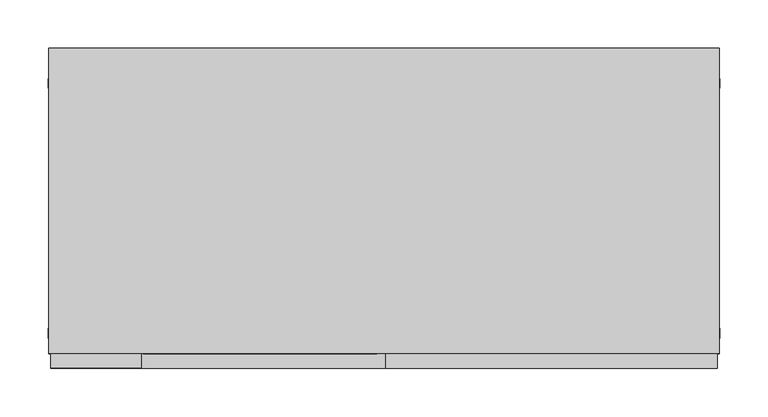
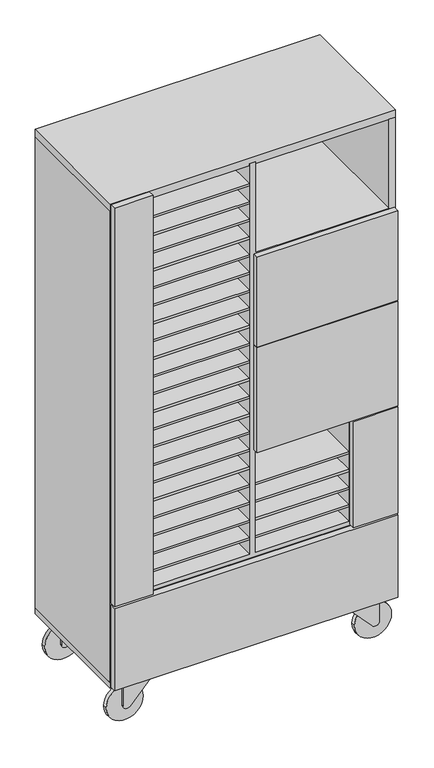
"""IFC4 building model written with IfcOpenShell, lengths in millimetres: furniture geometry, C03 Gabinete informatica : C03 Gabinete informatica."""

from ifc_helpers import new_model, si_unit, point, frame, frame_2d, origin, place, context, project, spatial, polyline, circle_curve, trimmed, segment, composite_curve, outline, extrude, source, transform, mapped, element, save


def furniture_ad757547(model_context):
    return source(origin(), model_context, "Body", "SweptSolid", [
        extrude(outline(polyline([(285.7003264, -48.0), (285.7003264, -24.0), (355.7003264, -24.0), (355.7003264, -48.0), (285.7003264, -48.0)])), frame((0.0, 0.0, 102.0), z_axis=(0.0, 0.0, 1.0), x_axis=(1.0, 0.0, 0.0)), (0.0, 0.0, 1.0), 3.0),
        extrude(outline(composite_curve([segment(polyline([(105.0, 355.7003264), (105.0, 285.7003264), (95.0, 285.7003264), (38.2006885, 338.3675668)]), True, "CONTINUOUS"), segment(trimmed(circle_curve(frame_2d((45.0, 345.7003264)), 10.0), [point((38.2006885, 338.3675668))], [point((45.0, 355.7003264))], False, "CARTESIAN"), True, "CONTINUOUS"), segment(polyline([(45.0, 355.7003264), (105.0, 355.7003264)]), True, "CONTINUOUS")], self_intersect=False)), frame((0.0, -51.0, 0.0), z_axis=(0.0, 1.0, 0.0), x_axis=(0.0, 0.0, 1.0)), (0.0, 0.0, 1.0), 3.0),
        extrude(outline(composite_curve([segment(polyline([(105.0, 355.7003264), (105.0, 285.7003264), (95.0, 285.7003264), (38.2006885, 338.3675668)]), True, "CONTINUOUS"), segment(trimmed(circle_curve(frame_2d((45.0, 345.7003264)), 10.0), [point((38.2006885, 338.3675668))], [point((45.0, 355.7003264))], False, "CARTESIAN"), True, "CONTINUOUS"), segment(polyline([(45.0, 355.7003264), (105.0, 355.7003264)]), True, "CONTINUOUS")], self_intersect=False)), frame((0.0, -24.0, 0.0), z_axis=(0.0, 1.0, 0.0), x_axis=(0.0, 0.0, 1.0)), (0.0, 0.0, 1.0), 3.0),
        extrude(outline(composite_curve([segment(trimmed(circle_curve(frame_2d((45.0, 345.7003264)), 45.0), [point((45.0, 390.7003264))], [point((45.0, 300.7003264))], False, "CARTESIAN"), True, "CONTINUOUS"), segment(trimmed(circle_curve(frame_2d((45.0, 345.7003264)), 45.0), [point((45.0, 300.7003264))], [point((45.0, 390.7003264))], False, "CARTESIAN"), True, "CONTINUOUS")], self_intersect=False)), frame((0.0, -41.0, 0.0), z_axis=(0.0, 1.0, 0.0), x_axis=(0.0, 0.0, 1.0)), (0.0, 0.0, 1.0), 10.0),
        extrude(outline(polyline([(-196.2996736, -48.0), (-266.2996736, -48.0), (-266.2996736, -24.0), (-196.2996736, -24.0), (-196.2996736, -48.0)])), frame((0.0, 0.0, 102.0), z_axis=(0.0, 0.0, 1.0), x_axis=(1.0, 0.0, 0.0)), (0.0, 0.0, 1.0), 3.0),
        extrude(outline(composite_curve([segment(polyline([(105.0, -266.2996736), (45.0, -266.2996736)]), True, "CONTINUOUS"), segment(trimmed(circle_curve(frame_2d((45.0, -256.2996736)), 10.0), [point((45.0, -266.2996736))], [point((38.2006885, -248.966914))], False, "CARTESIAN"), True, "CONTINUOUS"), segment(polyline([(38.2006885, -248.966914), (95.0, -196.2996736), (105.0, -196.2996736), (105.0, -266.2996736)]), True, "CONTINUOUS")], self_intersect=False)), frame((0.0, -51.0, 0.0), z_axis=(0.0, 1.0, 0.0), x_axis=(0.0, 0.0, 1.0)), (0.0, 0.0, 1.0), 3.0),
        extrude(outline(composite_curve([segment(polyline([(105.0, -266.2996736), (45.0, -266.2996736)]), True, "CONTINUOUS"), segment(trimmed(circle_curve(frame_2d((45.0, -256.2996736)), 10.0), [point((45.0, -266.2996736))], [point((38.2006885, -248.966914))], False, "CARTESIAN"), True, "CONTINUOUS"), segment(polyline([(38.2006885, -248.966914), (95.0, -196.2996736), (105.0, -196.2996736), (105.0, -266.2996736)]), True, "CONTINUOUS")], self_intersect=False)), frame((0.0, -24.0, 0.0), z_axis=(0.0, 1.0, 0.0), x_axis=(0.0, 0.0, 1.0)), (0.0, 0.0, 1.0), 3.0),
        extrude(outline(composite_curve([segment(trimmed(circle_curve(frame_2d((45.0, -256.2996736)), 45.0), [point((45.0, -301.2996736))], [point((45.0, -211.2996736))], False, "CARTESIAN"), True, "CONTINUOUS"), segment(trimmed(circle_curve(frame_2d((45.0, -256.2996736)), 45.0), [point((45.0, -211.2996736))], [point((45.0, -301.2996736))], False, "CARTESIAN"), True, "CONTINUOUS")], self_intersect=False)), frame((0.0, -41.0, 0.0), z_axis=(0.0, 1.0, 0.0), x_axis=(0.0, 0.0, 1.0)), (0.0, 0.0, 1.0), 10.0),
        extrude(outline(polyline([(285.7003264, -282.0), (355.7003264, -282.0), (355.7003264, -306.0), (285.7003264, -306.0), (285.7003264, -282.0)])), frame((0.0, 0.0, 102.0), z_axis=(0.0, 0.0, 1.0), x_axis=(1.0, 0.0, 0.0)), (0.0, 0.0, 1.0), 3.0),
        extrude(outline(composite_curve([segment(polyline([(105.0, 355.7003264), (105.0, 285.7003264), (95.0, 285.7003264), (38.2006885, 338.3675668)]), True, "CONTINUOUS"), segment(trimmed(circle_curve(frame_2d((45.0, 345.7003264)), 10.0), [point((38.2006885, 338.3675668))], [point((45.0, 355.7003264))], False, "CARTESIAN"), True, "CONTINUOUS"), segment(polyline([(45.0, 355.7003264), (105.0, 355.7003264)]), True, "CONTINUOUS")], self_intersect=False)), frame((0.0, -282.0, 0.0), z_axis=(0.0, 1.0, 0.0), x_axis=(0.0, 0.0, 1.0)), (0.0, 0.0, 1.0), 3.0),
        extrude(outline(composite_curve([segment(polyline([(105.0, 355.7003264), (105.0, 285.7003264), (95.0, 285.7003264), (38.2006885, 338.3675668)]), True, "CONTINUOUS"), segment(trimmed(circle_curve(frame_2d((45.0, 345.7003264)), 10.0), [point((38.2006885, 338.3675668))], [point((45.0, 355.7003264))], False, "CARTESIAN"), True, "CONTINUOUS"), segment(polyline([(45.0, 355.7003264), (105.0, 355.7003264)]), True, "CONTINUOUS")], self_intersect=False)), frame((0.0, -309.0, 0.0), z_axis=(0.0, 1.0, 0.0), x_axis=(0.0, 0.0, 1.0)), (0.0, 0.0, 1.0), 3.0),
        extrude(outline(composite_curve([segment(trimmed(circle_curve(frame_2d((45.0, 345.7003264)), 45.0), [point((45.0, 390.7003264))], [point((45.0, 300.7003264))], False, "CARTESIAN"), True, "CONTINUOUS"), segment(trimmed(circle_curve(frame_2d((45.0, 345.7003264)), 45.0), [point((45.0, 300.7003264))], [point((45.0, 390.7003264))], False, "CARTESIAN"), True, "CONTINUOUS")], self_intersect=False)), frame((0.0, -299.0, 0.0), z_axis=(0.0, 1.0, 0.0), x_axis=(0.0, 0.0, 1.0)), (0.0, 0.0, 1.0), 10.0),
        extrude(outline(polyline([(-196.2996736, -282.0), (-196.2996736, -306.0), (-266.2996736, -306.0), (-266.2996736, -282.0), (-196.2996736, -282.0)])), frame((0.0, 0.0, 102.0), z_axis=(0.0, 0.0, 1.0), x_axis=(1.0, 0.0, 0.0)), (0.0, 0.0, 1.0), 3.0),
        extrude(outline(composite_curve([segment(polyline([(105.0, -266.2996736), (45.0, -266.2996736)]), True, "CONTINUOUS"), segment(trimmed(circle_curve(frame_2d((45.0, -256.2996736)), 10.0), [point((45.0, -266.2996736))], [point((38.2006885, -248.966914))], False, "CARTESIAN"), True, "CONTINUOUS"), segment(polyline([(38.2006885, -248.966914), (95.0, -196.2996736), (105.0, -196.2996736), (105.0, -266.2996736)]), True, "CONTINUOUS")], self_intersect=False)), frame((0.0, -282.0, 0.0), z_axis=(0.0, 1.0, 0.0), x_axis=(0.0, 0.0, 1.0)), (0.0, 0.0, 1.0), 3.0),
        extrude(outline(composite_curve([segment(polyline([(105.0, -266.2996736), (45.0, -266.2996736)]), True, "CONTINUOUS"), segment(trimmed(circle_curve(frame_2d((45.0, -256.2996736)), 10.0), [point((45.0, -266.2996736))], [point((38.2006885, -248.966914))], False, "CARTESIAN"), True, "CONTINUOUS"), segment(polyline([(38.2006885, -248.966914), (95.0, -196.2996736), (105.0, -196.2996736), (105.0, -266.2996736)]), True, "CONTINUOUS")], self_intersect=False)), frame((0.0, -309.0, 0.0), z_axis=(0.0, 1.0, 0.0), x_axis=(0.0, 0.0, 1.0)), (0.0, 0.0, 1.0), 3.0),
        extrude(outline(composite_curve([segment(trimmed(circle_curve(frame_2d((45.0, -256.2996736)), 45.0), [point((45.0, -301.2996736))], [point((45.0, -211.2996736))], False, "CARTESIAN"), True, "CONTINUOUS"), segment(trimmed(circle_curve(frame_2d((45.0, -256.2996736)), 45.0), [point((45.0, -211.2996736))], [point((45.0, -301.2996736))], False, "CARTESIAN"), True, "CONTINUOUS")], self_intersect=False)), frame((0.0, -299.0, 0.0), z_axis=(0.0, 1.0, 0.0), x_axis=(0.0, 0.0, 1.0)), (0.0, 0.0, 1.0), 10.0),
        extrude(outline(polyline([(37.2003264, -315.0), (-203.7996736, -315.0), (-203.7996736, -15.0), (37.2003264, -15.0), (37.2003264, -315.0)])), frame((0.0, 0.0, 367.0), z_axis=(0.0, 0.0, 1.0), x_axis=(1.0, 0.0, 0.0)), (0.0, 0.0, 1.0), 5.5),
        extrude(outline(polyline([(37.2003264, -315.0), (-203.7996736, -315.0), (-203.7996736, -15.0), (37.2003264, -15.0), (37.2003264, -315.0)])), frame((0.0, 0.0, 412.3), z_axis=(0.0, 0.0, 1.0), x_axis=(1.0, 0.0, 0.0)), (0.0, 0.0, 1.0), 5.5),
        extrude(outline(polyline([(37.2003264, -315.0), (-203.7996736, -315.0), (-203.7996736, -15.0), (37.2003264, -15.0), (37.2003264, -315.0)])), frame((0.0, 0.0, 457.6), z_axis=(0.0, 0.0, 1.0), x_axis=(1.0, 0.0, 0.0)), (0.0, 0.0, 1.0), 5.5),
        extrude(outline(polyline([(37.2003264, -315.0), (-203.7996736, -315.0), (-203.7996736, -15.0), (37.2003264, -15.0), (37.2003264, -315.0)])), frame((0.0, 0.0, 502.9), z_axis=(0.0, 0.0, 1.0), x_axis=(1.0, 0.0, 0.0)), (0.0, 0.0, 1.0), 5.5),
        extrude(outline(polyline([(37.2003264, -315.0), (-203.7996736, -315.0), (-203.7996736, -15.0), (37.2003264, -15.0), (37.2003264, -315.0)])), frame((0.0, 0.0, 548.2), z_axis=(0.0, 0.0, 1.0), x_axis=(1.0, 0.0, 0.0)), (0.0, 0.0, 1.0), 5.5),
        extrude(outline(polyline([(37.2003264, -315.0), (-203.7996736, -315.0), (-203.7996736, -15.0), (37.2003264, -15.0), (37.2003264, -315.0)])), frame((0.0, 0.0, 593.5), z_axis=(0.0, 0.0, 1.0), x_axis=(1.0, 0.0, 0.0)), (0.0, 0.0, 1.0), 5.5),
        extrude(outline(polyline([(37.2003264, -315.0), (-203.7996736, -315.0), (-203.7996736, -15.0), (37.2003264, -15.0), (37.2003264, -315.0)])), frame((0.0, 0.0, 638.8), z_axis=(0.0, 0.0, 1.0), x_axis=(1.0, 0.0, 0.0)), (0.0, 0.0, 1.0), 5.5),
        extrude(outline(polyline([(37.2003264, -315.0), (-203.7996736, -315.0), (-203.7996736, -15.0), (37.2003264, -15.0), (37.2003264, -315.0)])), frame((0.0, 0.0, 684.1), z_axis=(0.0, 0.0, 1.0), x_axis=(1.0, 0.0, 0.0)), (0.0, 0.0, 1.0), 5.5),
        extrude(outline(polyline([(37.2003264, -315.0), (-203.7996736, -315.0), (-203.7996736, -15.0), (37.2003264, -15.0), (37.2003264, -315.0)])), frame((0.0, 0.0, 729.4), z_axis=(0.0, 0.0, 1.0), x_axis=(1.0, 0.0, 0.0)), (0.0, 0.0, 1.0), 5.5),
        extrude(outline(polyline([(37.2003264, -315.0), (-203.7996736, -315.0), (-203.7996736, -15.0), (37.2003264, -15.0), (37.2003264, -315.0)])), frame((0.0, 0.0, 774.7), z_axis=(0.0, 0.0, 1.0), x_axis=(1.0, 0.0, 0.0)), (0.0, 0.0, 1.0), 5.5),
        extrude(outline(polyline([(37.2003264, -315.0), (-203.7996736, -315.0), (-203.7996736, -15.0), (37.2003264, -15.0), (37.2003264, -315.0)])), frame((0.0, 0.0, 820.0), z_axis=(0.0, 0.0, 1.0), x_axis=(1.0, 0.0, 0.0)), (0.0, 0.0, 1.0), 5.5),
        extrude(outline(polyline([(37.2003264, -315.0), (-203.7996736, -315.0), (-203.7996736, -15.0), (37.2003264, -15.0), (37.2003264, -315.0)])), frame((0.0, 0.0, 865.3), z_axis=(0.0, 0.0, 1.0), x_axis=(1.0, 0.0, 0.0)), (0.0, 0.0, 1.0), 5.5),
        extrude(outline(polyline([(37.2003264, -315.0), (-203.7996736, -315.0), (-203.7996736, -15.0), (37.2003264, -15.0), (37.2003264, -315.0)])), frame((0.0, 0.0, 910.6), z_axis=(0.0, 0.0, 1.0), x_axis=(1.0, 0.0, 0.0)), (0.0, 0.0, 1.0), 5.5),
        extrude(outline(polyline([(37.2003264, -315.0), (-203.7996736, -315.0), (-203.7996736, -15.0), (37.2003264, -15.0), (37.2003264, -315.0)])), frame((0.0, 0.0, 955.9), z_axis=(0.0, 0.0, 1.0), x_axis=(1.0, 0.0, 0.0)), (0.0, 0.0, 1.0), 5.5),
        extrude(outline(polyline([(37.2003264, -315.0), (-203.7996736, -315.0), (-203.7996736, -15.0), (37.2003264, -15.0), (37.2003264, -315.0)])), frame((0.0, 0.0, 1001.2), z_axis=(0.0, 0.0, 1.0), x_axis=(1.0, 0.0, 0.0)), (0.0, 0.0, 1.0), 5.5),
        extrude(outline(polyline([(37.2003264, -315.0), (-203.7996736, -315.0), (-203.7996736, -15.0), (37.2003264, -15.0), (37.2003264, -315.0)])), frame((0.0, 0.0, 1046.5), z_axis=(0.0, 0.0, 1.0), x_axis=(1.0, 0.0, 0.0)), (0.0, 0.0, 1.0), 5.5),
        extrude(outline(polyline([(37.2003264, -315.0), (-203.7996736, -315.0), (-203.7996736, -15.0), (37.2003264, -15.0), (37.2003264, -315.0)])), frame((0.0, 0.0, 1091.8), z_axis=(0.0, 0.0, 1.0), x_axis=(1.0, 0.0, 0.0)), (0.0, 0.0, 1.0), 5.5),
        extrude(outline(polyline([(37.2003264, -315.0), (-203.7996736, -315.0), (-203.7996736, -15.0), (37.2003264, -15.0), (37.2003264, -315.0)])), frame((0.0, 0.0, 1137.1), z_axis=(0.0, 0.0, 1.0), x_axis=(1.0, 0.0, 0.0)), (0.0, 0.0, 1.0), 5.5),
        extrude(outline(polyline([(37.2003264, -315.0), (-203.7996736, -315.0), (-203.7996736, -15.0), (37.2003264, -15.0), (37.2003264, -315.0)])), frame((0.0, 0.0, 1182.4), z_axis=(0.0, 0.0, 1.0), x_axis=(1.0, 0.0, 0.0)), (0.0, 0.0, 1.0), 5.5),
        extrude(outline(polyline([(278.2003264, -315.0), (52.2003264, -315.0), (52.2003264, -15.0), (278.2003264, -15.0), (278.2003264, -315.0)])), frame((0.0, 0.0, 367.0), z_axis=(0.0, 0.0, 1.0), x_axis=(1.0, 0.0, 0.0)), (0.0, 0.0, 1.0), 5.5),
        extrude(outline(polyline([(278.2003264, -315.0), (52.2003264, -315.0), (52.2003264, -15.0), (278.2003264, -15.0), (278.2003264, -315.0)])), frame((0.0, 0.0, 412.3), z_axis=(0.0, 0.0, 1.0), x_axis=(1.0, 0.0, 0.0)), (0.0, 0.0, 1.0), 5.5),
        extrude(outline(polyline([(278.2003264, -315.0), (52.2003264, -315.0), (52.2003264, -15.0), (278.2003264, -15.0), (278.2003264, -315.0)])), frame((0.0, 0.0, 457.6), z_axis=(0.0, 0.0, 1.0), x_axis=(1.0, 0.0, 0.0)), (0.0, 0.0, 1.0), 5.5),
        extrude(outline(polyline([(278.2003264, -315.0), (52.2003264, -315.0), (52.2003264, -15.0), (278.2003264, -15.0), (278.2003264, -315.0)])), frame((0.0, 0.0, 502.9), z_axis=(0.0, 0.0, 1.0), x_axis=(1.0, 0.0, 0.0)), (0.0, 0.0, 1.0), 5.5),
        extrude(outline(polyline([(37.2003264, -315.0), (-203.7996736, -315.0), (-203.7996736, -15.0), (37.2003264, -15.0), (37.2003264, -315.0)])), frame((0.0, 0.0, 1227.7), z_axis=(0.0, 0.0, 1.0), x_axis=(1.0, 0.0, 0.0)), (0.0, 0.0, 1.0), 5.5),
        extrude(outline(polyline([(37.2003264, -315.0), (-203.7996736, -315.0), (-203.7996736, -15.0), (37.2003264, -15.0), (37.2003264, -315.0)])), frame((0.0, 0.0, 1273.0), z_axis=(0.0, 0.0, 1.0), x_axis=(1.0, 0.0, 0.0)), (0.0, 0.0, 1.0), 5.5),
        extrude(outline(polyline([(1097.9429205, 52.2003264), (1330.0, 52.2003264), (1330.0, 37.2003264), (330.0, 37.2003264), (330.0, -203.7996736), (1330.0, -203.7996736), (1330.0, -218.7996736), (330.0, -218.7996736), (330.0, -285.7996736), (320.0, -285.7996736), (320.0, 375.2003264), (330.0, 375.2003264), (330.0, 293.2003264), (588.0, 293.2003264), (588.0, 375.2003264), (603.0, 375.2003264), (603.0, 52.2003264), (859.0, 52.2003264), (859.0, 375.2003264), (874.0, 375.2003264), (874.0, 52.2003264), (1083.0, 52.2003264), (1083.0, 375.2003264), (1097.9429205, 375.2003264), (1097.9429205, 52.2003264)]), holes=[polyline([(330.0, 52.2003264), (588.0, 52.2003264), (588.0, 278.2003264), (330.0, 278.2003264), (330.0, 52.2003264)])]), frame((0.0, -315.0, 0.0), z_axis=(0.0, 1.0, 0.0), x_axis=(0.0, 0.0, 1.0)), (0.0, 0.0, 1.0), 300.0),
        extrude(outline(polyline([(388.2003264, -330.0), (-298.7996736, -330.0), (-298.7996736, -315.0), (388.2003264, -315.0), (388.2003264, -330.0)])), frame((0.0, 0.0, 107.0), z_axis=(0.0, 0.0, 1.0), x_axis=(1.0, 0.0, 0.0)), (0.0, 0.0, 1.0), 211.0),
        extrude(outline(polyline([(388.2003264, -330.0), (280.2003264, -330.0), (280.2003264, -315.0), (388.2003264, -315.0), (388.2003264, -330.0)])), frame((0.0, 0.0, 322.0), z_axis=(0.0, 0.0, 1.0), x_axis=(1.0, 0.0, 0.0)), (0.0, 0.0, 1.0), 272.0271295),
        extrude(outline(polyline([(388.2003264, -330.0), (46.7003264, -330.0), (46.7003264, -315.0), (388.2003264, -315.0), (388.2003264, -330.0)])), frame((0.0, 0.0, 596.0271295), z_axis=(0.0, 0.0, 1.0), x_axis=(1.0, 0.0, 0.0)), (0.0, 0.0, 1.0), 268.3322011),
        extrude(outline(polyline([(388.2003264, -330.0), (46.7003264, -330.0), (46.7003264, -315.0), (388.2003264, -315.0), (388.2003264, -330.0)])), frame((0.0, 0.0, 866.3593306), z_axis=(0.0, 0.0, 1.0), x_axis=(1.0, 0.0, 0.0)), (0.0, 0.0, 1.0), 229.5835898),
        extrude(outline(polyline([(-205.7996736, -330.0), (-298.7996736, -330.0), (-298.7996736, -315.0), (-205.7996736, -315.0), (-205.7996736, -330.0)])), frame((0.0, 0.0, 322.0), z_axis=(0.0, 0.0, 1.0), x_axis=(1.0, 0.0, 0.0)), (0.0, 0.0, 1.0), 1021.0),
        extrude(outline(polyline([(-300.7996736, 0.0), (390.2003264, 0.0), (390.2003264, -315.0), (375.2003264, -315.0), (375.2003264, -15.0), (-285.7996736, -15.0), (-285.7996736, -315.0), (-300.7996736, -315.0), (-300.7996736, 0.0)])), frame((0.0, 0.0, 120.0), z_axis=(0.0, 0.0, 1.0), x_axis=(1.0, 0.0, 0.0)), (0.0, 0.0, 1.0), 1205.0),
        extrude(outline(polyline([(390.2003264, 0.0), (390.2003264, -315.0), (-300.7996736, -315.0), (-300.7996736, 0.0), (390.2003264, 0.0)])), frame((0.0, 0.0, 105.0), z_axis=(0.0, 0.0, 1.0), x_axis=(1.0, 0.0, 0.0)), (0.0, 0.0, 1.0), 15.0),
        extrude(outline(polyline([(390.2003264, 0.0), (390.2003264, -315.0), (-300.7996736, -315.0), (-300.7996736, 0.0), (390.2003264, 0.0)])), frame((0.0, 0.0, 1325.0), z_axis=(0.0, 0.0, 1.0), x_axis=(1.0, 0.0, 0.0)), (0.0, 0.0, 1.0), 20.0),
    ])


if __name__ == "__main__":
    model = new_model("IFC4")
    model_context = context("Model", 3, world=origin())
    ifc_project = project(units=[si_unit("LENGTHUNIT", "METRE", prefix="MILLI")], contexts=[model_context])
    site = spatial("IfcSite", under=ifc_project)
    building = spatial("IfcBuilding", under=site)
    placement = place(None, origin())
    furniture_shape = furniture_ad757547(model_context)
    element("IfcFurniture", 1, ObjectType="C03 Gabinete informatica : C03 Gabinete informatica", at=placement, inside=building, context=model_context, shape_type="MappedRepresentation", body=[
        mapped(furniture_shape, transform((0.0, 0.0, 0.0), x_axis=(1.0, 0.0, 0.0), y_axis=(0.0, 1.0, 0.0), z_axis=(0.0, 0.0, 1.0))),
    ])
    save(model, "model.ifc")
